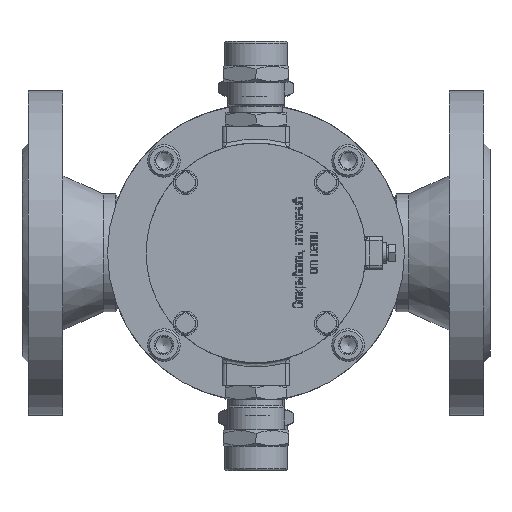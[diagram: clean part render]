
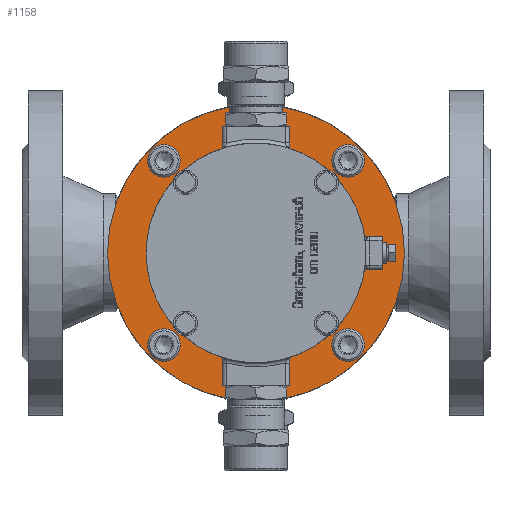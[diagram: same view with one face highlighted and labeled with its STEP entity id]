
A CAD part, front view. The second image highlights one B-rep face of the part: STEP entity #1158.
In plain terms, the highlighted planar face has unit normal (0, -1, 0).
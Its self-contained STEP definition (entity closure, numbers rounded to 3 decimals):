
#1158=ADVANCED_FACE('',(#32109,#32111,#32113,#32115,#32117,#32119),#32121,.T.);
#32109=FACE_BOUND('',#32110,.T.);
#32110=EDGE_LOOP('',(#62728));
#32111=FACE_BOUND('',#32112,.T.);
#32112=EDGE_LOOP('',(#62729,#62730,#62731,#62732));
#32113=FACE_BOUND('',#32114,.T.);
#32114=EDGE_LOOP('',(#62733,#62734,#62735,#62736));
#32115=FACE_BOUND('',#32116,.T.);
#32116=EDGE_LOOP('',(#62737));
#32117=FACE_BOUND('',#32118,.T.);
#32118=EDGE_LOOP('',(#62738,#62739,#62740,#62741));
#32119=FACE_BOUND('',#32120,.T.);
#32120=EDGE_LOOP('',(#62742,#62743,#62744,#62745));
#32121=PLANE('',#32122);
#32122=AXIS2_PLACEMENT_3D('',#32123,#32124,#32125);
#32123=CARTESIAN_POINT('',(0.,-101.5,0.));
#32124=DIRECTION('',(0.,-1.,0.));
#32125=DIRECTION('',(0.,0.,1.));
#62728=ORIENTED_EDGE('',*,*,#80965,.F.);
#62729=ORIENTED_EDGE('',*,*,#80966,.F.);
#62730=ORIENTED_EDGE('',*,*,#80903,.F.);
#62731=ORIENTED_EDGE('',*,*,#80967,.T.);
#62732=ORIENTED_EDGE('',*,*,#80909,.F.);
#62733=ORIENTED_EDGE('',*,*,#80968,.F.);
#62734=ORIENTED_EDGE('',*,*,#80916,.F.);
#62735=ORIENTED_EDGE('',*,*,#80969,.T.);
#62736=ORIENTED_EDGE('',*,*,#80922,.F.);
#62737=ORIENTED_EDGE('',*,*,#80970,.T.);
#62738=ORIENTED_EDGE('',*,*,#80971,.F.);
#62739=ORIENTED_EDGE('',*,*,#80890,.F.);
#62740=ORIENTED_EDGE('',*,*,#80972,.T.);
#62741=ORIENTED_EDGE('',*,*,#80896,.F.);
#62742=ORIENTED_EDGE('',*,*,#80973,.F.);
#62743=ORIENTED_EDGE('',*,*,#80877,.F.);
#62744=ORIENTED_EDGE('',*,*,#80974,.T.);
#62745=ORIENTED_EDGE('',*,*,#80883,.F.);
#80877=EDGE_CURVE('',#90237,#90239,#90240,.F.);
#80883=EDGE_CURVE('',#90247,#90249,#90250,.F.);
#80890=EDGE_CURVE('',#90259,#90261,#90262,.F.);
#80896=EDGE_CURVE('',#90269,#90271,#90272,.F.);
#80903=EDGE_CURVE('',#90281,#90283,#90284,.F.);
#80909=EDGE_CURVE('',#90291,#90293,#90294,.F.);
#80916=EDGE_CURVE('',#90303,#90305,#90306,.F.);
#80922=EDGE_CURVE('',#90313,#90315,#90316,.F.);
#80965=EDGE_CURVE('',#90390,#90390,#90391,.T.);
#80966=EDGE_CURVE('',#90283,#90291,#90392,.T.);
#80967=EDGE_CURVE('',#90281,#90293,#90393,.F.);
#80968=EDGE_CURVE('',#90305,#90313,#90394,.T.);
#80969=EDGE_CURVE('',#90303,#90315,#90395,.F.);
#80970=EDGE_CURVE('',#90396,#90396,#90397,.T.);
#80971=EDGE_CURVE('',#90261,#90269,#90398,.T.);
#80972=EDGE_CURVE('',#90259,#90271,#90399,.F.);
#80973=EDGE_CURVE('',#90239,#90247,#90400,.T.);
#80974=EDGE_CURVE('',#90237,#90249,#90401,.F.);
#90237=VERTEX_POINT('',#106030);
#90239=VERTEX_POINT('',#106034);
#90240=LINE('',#106035,#106036);
#90247=VERTEX_POINT('',#106055);
#90249=VERTEX_POINT('',#106060);
#90250=LINE('',#106061,#106062);
#90259=VERTEX_POINT('',#106085);
#90261=VERTEX_POINT('',#106089);
#90262=LINE('',#106090,#106091);
#90269=VERTEX_POINT('',#106110);
#90271=VERTEX_POINT('',#106115);
#90272=LINE('',#106116,#106117);
#90281=VERTEX_POINT('',#106140);
#90283=VERTEX_POINT('',#106144);
#90284=LINE('',#106145,#106146);
#90291=VERTEX_POINT('',#106165);
#90293=VERTEX_POINT('',#106170);
#90294=LINE('',#106171,#106172);
#90303=VERTEX_POINT('',#106195);
#90305=VERTEX_POINT('',#106199);
#90306=LINE('',#106200,#106201);
#90313=VERTEX_POINT('',#106220);
#90315=VERTEX_POINT('',#106225);
#90316=LINE('',#106226,#106227);
#90390=VERTEX_POINT('',#106773);
#90391=CIRCLE('',#106774,73.);
#90392=CIRCLE('',#106778,7.6);
#90393=CIRCLE('',#106782,6.);
#90394=CIRCLE('',#106786,7.6);
#90395=CIRCLE('',#106790,6.);
#90396=VERTEX_POINT('',#106794);
#90397=CIRCLE('',#106795,32.25);
#90398=CIRCLE('',#106799,7.6);
#90399=CIRCLE('',#106803,6.);
#90400=CIRCLE('',#106807,7.6);
#90401=CIRCLE('',#106811,6.);
#106030=CARTESIAN_POINT('',(-39.417,-101.5,-43.869));
#106034=CARTESIAN_POINT('',(-37.782,-101.5,-43.869));
#106035=CARTESIAN_POINT('',(-37.782,-101.5,-43.869));
#106036=VECTOR('',#106037,1.);
#106037=DIRECTION('',(-1.,0.,0.));
#106055=CARTESIAN_POINT('',(-37.67,-101.5,-45.731));
#106060=CARTESIAN_POINT('',(-39.274,-101.5,-45.731));
#106061=CARTESIAN_POINT('',(-39.274,-101.5,-45.731));
#106062=VECTOR('',#106063,1.);
#106063=DIRECTION('',(1.,0.,0.));
#106085=CARTESIAN_POINT('',(51.093,-101.5,46.641));
#106089=CARTESIAN_POINT('',(52.727,-101.5,46.641));
#106090=CARTESIAN_POINT('',(52.727,-101.5,46.641));
#106091=VECTOR('',#106092,1.);
#106092=DIRECTION('',(-1.,0.,0.));
#106110=CARTESIAN_POINT('',(52.84,-101.5,44.779));
#106115=CARTESIAN_POINT('',(51.236,-101.5,44.779));
#106116=CARTESIAN_POINT('',(51.236,-101.5,44.779));
#106117=VECTOR('',#106118,1.);
#106118=DIRECTION('',(1.,0.,0.));
#106140=CARTESIAN_POINT('',(-39.417,-101.5,46.641));
#106144=CARTESIAN_POINT('',(-37.782,-101.5,46.641));
#106145=CARTESIAN_POINT('',(-37.782,-101.5,46.641));
#106146=VECTOR('',#106147,1.);
#106147=DIRECTION('',(-1.,0.,0.));
#106165=CARTESIAN_POINT('',(-37.67,-101.5,44.779));
#106170=CARTESIAN_POINT('',(-39.274,-101.5,44.779));
#106171=CARTESIAN_POINT('',(-39.274,-101.5,44.779));
#106172=VECTOR('',#106173,1.);
#106173=DIRECTION('',(1.,0.,0.));
#106195=CARTESIAN_POINT('',(51.093,-101.5,-43.869));
#106199=CARTESIAN_POINT('',(52.727,-101.5,-43.869));
#106200=CARTESIAN_POINT('',(52.727,-101.5,-43.869));
#106201=VECTOR('',#106202,1.);
#106202=DIRECTION('',(-1.,0.,0.));
#106220=CARTESIAN_POINT('',(52.84,-101.5,-45.731));
#106225=CARTESIAN_POINT('',(51.236,-101.5,-45.731));
#106226=CARTESIAN_POINT('',(51.236,-101.5,-45.731));
#106227=VECTOR('',#106228,1.);
#106228=DIRECTION('',(1.,0.,0.));
#106773=CARTESIAN_POINT('',(0.,-101.5,73.));
#106774=AXIS2_PLACEMENT_3D('',#106775,#106776,#106777);
#106775=CARTESIAN_POINT('',(0.,-101.5,0.));
#106776=DIRECTION('',(0.,1.,0.));
#106777=DIRECTION('',(0.,0.,1.));
#106778=AXIS2_PLACEMENT_3D('',#106779,#106780,#106781);
#106779=CARTESIAN_POINT('',(-45.255,-101.5,45.255));
#106780=DIRECTION('',(0.,-1.,0.));
#106781=DIRECTION('',(0.983,0.,0.182));
#106782=AXIS2_PLACEMENT_3D('',#106783,#106784,#106785);
#106783=CARTESIAN_POINT('',(-45.255,-101.5,45.255));
#106784=DIRECTION('',(0.,-1.,0.));
#106785=DIRECTION('',(0.997,0.,-0.079));
#106786=AXIS2_PLACEMENT_3D('',#106787,#106788,#106789);
#106787=CARTESIAN_POINT('',(45.255,-101.5,-45.255));
#106788=DIRECTION('',(0.,-1.,0.));
#106789=DIRECTION('',(0.983,0.,0.182));
#106790=AXIS2_PLACEMENT_3D('',#106791,#106792,#106793);
#106791=CARTESIAN_POINT('',(45.255,-101.5,-45.255));
#106792=DIRECTION('',(0.,-1.,0.));
#106793=DIRECTION('',(0.997,0.,-0.079));
#106794=CARTESIAN_POINT('',(0.,-101.5,32.25));
#106795=AXIS2_PLACEMENT_3D('',#106796,#106797,#106798);
#106796=CARTESIAN_POINT('',(0.,-101.5,0.));
#106797=DIRECTION('',(0.,1.,0.));
#106798=DIRECTION('',(0.,0.,1.));
#106799=AXIS2_PLACEMENT_3D('',#106800,#106801,#106802);
#106800=CARTESIAN_POINT('',(45.255,-101.5,45.255));
#106801=DIRECTION('',(0.,-1.,0.));
#106802=DIRECTION('',(0.983,0.,0.182));
#106803=AXIS2_PLACEMENT_3D('',#106804,#106805,#106806);
#106804=CARTESIAN_POINT('',(45.255,-101.5,45.255));
#106805=DIRECTION('',(0.,-1.,0.));
#106806=DIRECTION('',(0.997,0.,-0.079));
#106807=AXIS2_PLACEMENT_3D('',#106808,#106809,#106810);
#106808=CARTESIAN_POINT('',(-45.255,-101.5,-45.255));
#106809=DIRECTION('',(0.,-1.,0.));
#106810=DIRECTION('',(0.983,0.,0.182));
#106811=AXIS2_PLACEMENT_3D('',#106812,#106813,#106814);
#106812=CARTESIAN_POINT('',(-45.255,-101.5,-45.255));
#106813=DIRECTION('',(0.,-1.,0.));
#106814=DIRECTION('',(0.997,0.,-0.079));
